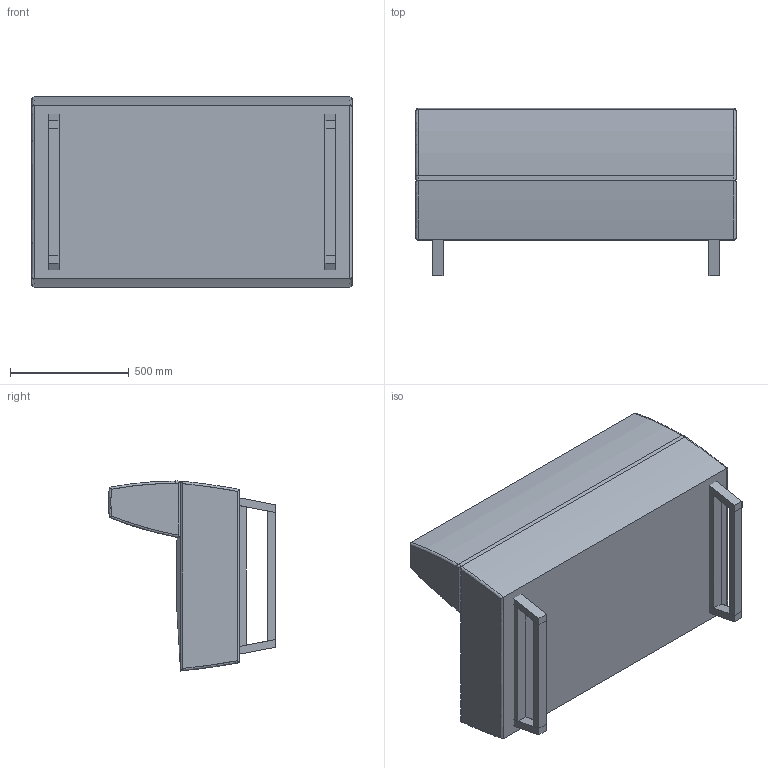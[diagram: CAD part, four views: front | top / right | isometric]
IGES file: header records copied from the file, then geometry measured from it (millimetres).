
Start section: SolidWorks IGES file using analytic representation for surfaces
Global section: file name: P:\3D CAD BLOCKS\us\TWO SEAT WITH BACK\us - TWO SEAT WITH BACK .IGS; native system: SolidWorks 2012; preprocessor: SolidWorks 2012; author: adam; date: 140220.190422; units: millimetre
Bounding box: 1350 x 703.1 x 800.13 mm (x, y, z)
Surface area: 5470341.1 mm2 (no closed solid volume)
Topology: 0 solids, 0 shells, 134 faces, 1207 edges, 1207 vertices
Faces by surface type: bspline 108, revolution 26
